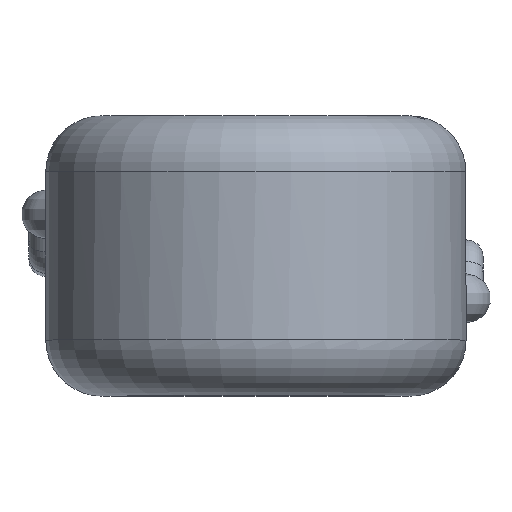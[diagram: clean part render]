
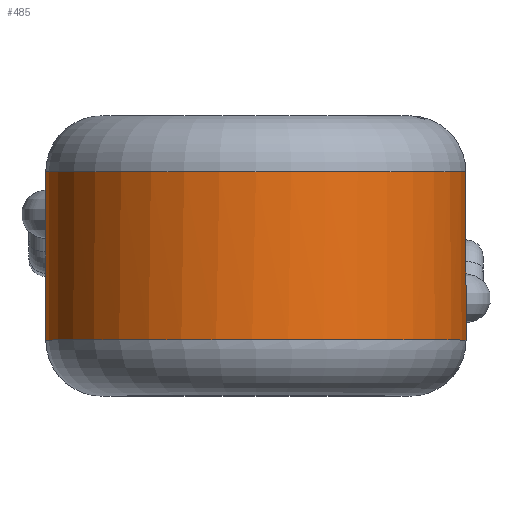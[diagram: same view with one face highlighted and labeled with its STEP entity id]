
A CAD part, top view. The second image highlights one B-rep face of the part: STEP entity #485.
In plain terms, the highlighted cylindrical face has radius 3.75 mm (diameter 7.5 mm), a full revolution.
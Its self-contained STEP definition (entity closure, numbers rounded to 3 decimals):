
#48=LINE('',#2320,#53);
#53=VECTOR('',#676,3.75);
#62=CYLINDRICAL_SURFACE('',#559,3.75);
#86=FACE_OUTER_BOUND('',#117,.T.);
#117=EDGE_LOOP('',(#412,#413,#414,#415,#416,#417,#418,#419,#420,#421,#422,
#423));
#145=CIRCLE('',#543,3.75);
#146=CIRCLE('',#544,3.75);
#147=CIRCLE('',#545,3.75);
#153=CIRCLE('',#552,3.75);
#154=CIRCLE('',#553,3.75);
#155=CIRCLE('',#554,3.75);
#177=B_SPLINE_CURVE_WITH_KNOTS('',3,(#957,#958,#959,#960,#961,#962,#963,
#964,#965,#966,#967,#968,#969,#970,#971,#972,#973,#974,#975,#976,#977,#978),
 .UNSPECIFIED.,.F.,.F.,(4,3,3,3,3,3,3,4),(-0.122,-0.087,
-0.052,-0.048,-0.044,-0.035,
-0.018,0.),.UNSPECIFIED.);
#178=B_SPLINE_CURVE_WITH_KNOTS('',3,(#979,#980,#981,#982,#983,#984,#985,
#986),.UNSPECIFIED.,.F.,.F.,(4,1,1,1,1,4),(-0.288,-0.271,
-0.245,-0.219,-0.201,-0.167),
 .UNSPECIFIED.);
#186=B_SPLINE_CURVE_WITH_KNOTS('',3,(#1648,#1649,#1650,#1651,#1652,#1653,
#1654,#1655,#1656,#1657,#1658,#1659,#1660,#1661,#1662,#1663,#1664,#1665,
#1666,#1667,#1668,#1669),.UNSPECIFIED.,.F.,.F.,(4,3,3,3,3,3,3,4),(-0.122,
-0.087,-0.052,-0.048,-0.044,
-0.035,-0.018,0.),
 .UNSPECIFIED.);
#187=B_SPLINE_CURVE_WITH_KNOTS('',3,(#1670,#1671,#1672,#1673,#1674,#1675,
#1676,#1677),.UNSPECIFIED.,.F.,.F.,(4,1,1,1,1,4),(-0.288,-0.271,
-0.245,-0.219,-0.201,-0.167),
 .UNSPECIFIED.);
#207=VERTEX_POINT('',#887);
#212=VERTEX_POINT('',#954);
#213=VERTEX_POINT('',#956);
#217=VERTEX_POINT('',#1496);
#218=VERTEX_POINT('',#1499);
#219=VERTEX_POINT('',#1578);
#224=VERTEX_POINT('',#1645);
#225=VERTEX_POINT('',#1647);
#229=VERTEX_POINT('',#2187);
#230=VERTEX_POINT('',#2190);
#266=EDGE_CURVE('',#212,#213,#177,.T.);
#267=EDGE_CURVE('',#213,#207,#178,.T.);
#274=EDGE_CURVE('',#217,#212,#145,.T.);
#275=EDGE_CURVE('',#207,#218,#146,.T.);
#276=EDGE_CURVE('',#218,#217,#147,.T.);
#283=EDGE_CURVE('',#224,#225,#186,.T.);
#284=EDGE_CURVE('',#225,#219,#187,.T.);
#291=EDGE_CURVE('',#229,#224,#153,.T.);
#292=EDGE_CURVE('',#219,#230,#154,.T.);
#293=EDGE_CURVE('',#230,#229,#155,.T.);
#298=EDGE_CURVE('',#230,#218,#48,.T.);
#412=ORIENTED_EDGE('',*,*,#283,.F.);
#413=ORIENTED_EDGE('',*,*,#291,.F.);
#414=ORIENTED_EDGE('',*,*,#293,.F.);
#415=ORIENTED_EDGE('',*,*,#298,.T.);
#416=ORIENTED_EDGE('',*,*,#275,.F.);
#417=ORIENTED_EDGE('',*,*,#267,.F.);
#418=ORIENTED_EDGE('',*,*,#266,.F.);
#419=ORIENTED_EDGE('',*,*,#274,.F.);
#420=ORIENTED_EDGE('',*,*,#276,.F.);
#421=ORIENTED_EDGE('',*,*,#298,.F.);
#422=ORIENTED_EDGE('',*,*,#292,.F.);
#423=ORIENTED_EDGE('',*,*,#284,.F.);
#485=ADVANCED_FACE('',(#86),#62,.T.);
#543=AXIS2_PLACEMENT_3D('',#1498,#642,#643);
#544=AXIS2_PLACEMENT_3D('',#1500,#644,#645);
#545=AXIS2_PLACEMENT_3D('',#1501,#646,#647);
#552=AXIS2_PLACEMENT_3D('',#2189,#660,#661);
#553=AXIS2_PLACEMENT_3D('',#2191,#662,#663);
#554=AXIS2_PLACEMENT_3D('',#2192,#664,#665);
#559=AXIS2_PLACEMENT_3D('',#2319,#674,#675);
#642=DIRECTION('center_axis',(0.,1.,0.));
#643=DIRECTION('ref_axis',(-1.,0.,0.));
#644=DIRECTION('center_axis',(0.,1.,0.));
#645=DIRECTION('ref_axis',(-1.,0.,0.));
#646=DIRECTION('center_axis',(0.,1.,0.));
#647=DIRECTION('ref_axis',(-1.,0.,0.));
#660=DIRECTION('center_axis',(0.,-1.,0.));
#661=DIRECTION('ref_axis',(-1.,0.,0.));
#662=DIRECTION('center_axis',(0.,-1.,0.));
#663=DIRECTION('ref_axis',(-1.,0.,0.));
#664=DIRECTION('center_axis',(0.,-1.,0.));
#665=DIRECTION('ref_axis',(-1.,0.,0.));
#674=DIRECTION('center_axis',(0.,-1.,0.));
#675=DIRECTION('ref_axis',(1.,0.,0.));
#676=DIRECTION('',(0.,1.,0.));
#887=CARTESIAN_POINT('',(-2.978,1.5,-2.279));
#954=CARTESIAN_POINT('',(-2.484,1.5,-2.81));
#956=CARTESIAN_POINT('',(-2.747,-0.101,-2.553));
#957=CARTESIAN_POINT('Ctrl Pts',(-2.484,1.5,-2.81));
#958=CARTESIAN_POINT('Ctrl Pts',(-2.355,1.398,-2.923));
#959=CARTESIAN_POINT('Ctrl Pts',(-2.247,1.222,-3.003));
#960=CARTESIAN_POINT('Ctrl Pts',(-2.197,1.019,-3.039));
#961=CARTESIAN_POINT('Ctrl Pts',(-2.147,0.815,-3.076));
#962=CARTESIAN_POINT('Ctrl Pts',(-2.156,0.584,-3.069));
#963=CARTESIAN_POINT('Ctrl Pts',(-2.223,0.39,-3.02));
#964=CARTESIAN_POINT('Ctrl Pts',(-2.231,0.365,-3.014));
#965=CARTESIAN_POINT('Ctrl Pts',(-2.241,0.342,-3.007));
#966=CARTESIAN_POINT('Ctrl Pts',(-2.25,0.319,-2.999));
#967=CARTESIAN_POINT('Ctrl Pts',(-2.26,0.295,-2.992));
#968=CARTESIAN_POINT('Ctrl Pts',(-2.271,0.273,-2.984));
#969=CARTESIAN_POINT('Ctrl Pts',(-2.282,0.251,-2.975));
#970=CARTESIAN_POINT('Ctrl Pts',(-2.305,0.208,-2.958));
#971=CARTESIAN_POINT('Ctrl Pts',(-2.331,0.167,-2.938));
#972=CARTESIAN_POINT('Ctrl Pts',(-2.358,0.13,-2.915));
#973=CARTESIAN_POINT('Ctrl Pts',(-2.413,0.057,-2.871));
#974=CARTESIAN_POINT('Ctrl Pts',(-2.477,-0.002,
-2.817));
#975=CARTESIAN_POINT('Ctrl Pts',(-2.543,-0.042,
-2.756));
#976=CARTESIAN_POINT('Ctrl Pts',(-2.61,-0.082,
-2.694));
#977=CARTESIAN_POINT('Ctrl Pts',(-2.68,-0.102,-2.625));
#978=CARTESIAN_POINT('Ctrl Pts',(-2.747,-0.101,-2.553));
#979=CARTESIAN_POINT('Ctrl Pts',(-2.747,-0.101,-2.553));
#980=CARTESIAN_POINT('Ctrl Pts',(-2.812,-0.101,-2.482));
#981=CARTESIAN_POINT('Ctrl Pts',(-2.97,-0.047,
-2.299));
#982=CARTESIAN_POINT('Ctrl Pts',(-3.152,0.227,-2.037));
#983=CARTESIAN_POINT('Ctrl Pts',(-3.222,0.647,-1.917));
#984=CARTESIAN_POINT('Ctrl Pts',(-3.191,1.137,-1.971));
#985=CARTESIAN_POINT('Ctrl Pts',(-3.082,1.399,-2.143));
#986=CARTESIAN_POINT('Ctrl Pts',(-2.978,1.5,-2.279));
#1496=CARTESIAN_POINT('',(0.,1.5,3.75));
#1498=CARTESIAN_POINT('Origin',(0.,1.5,0.));
#1499=CARTESIAN_POINT('',(-3.75,1.5,0.));
#1500=CARTESIAN_POINT('Origin',(0.,1.5,0.));
#1501=CARTESIAN_POINT('Origin',(0.,1.5,0.));
#1578=CARTESIAN_POINT('',(2.978,-1.5,-2.279));
#1645=CARTESIAN_POINT('',(2.484,-1.5,-2.81));
#1647=CARTESIAN_POINT('',(2.747,0.101,-2.553));
#1648=CARTESIAN_POINT('Ctrl Pts',(2.484,-1.5,-2.81));
#1649=CARTESIAN_POINT('Ctrl Pts',(2.355,-1.398,-2.923));
#1650=CARTESIAN_POINT('Ctrl Pts',(2.247,-1.222,-3.003));
#1651=CARTESIAN_POINT('Ctrl Pts',(2.197,-1.019,-3.039));
#1652=CARTESIAN_POINT('Ctrl Pts',(2.147,-0.815,-3.076));
#1653=CARTESIAN_POINT('Ctrl Pts',(2.156,-0.584,-3.069));
#1654=CARTESIAN_POINT('Ctrl Pts',(2.223,-0.39,-3.02));
#1655=CARTESIAN_POINT('Ctrl Pts',(2.231,-0.365,-3.014));
#1656=CARTESIAN_POINT('Ctrl Pts',(2.241,-0.342,-3.007));
#1657=CARTESIAN_POINT('Ctrl Pts',(2.25,-0.319,-2.999));
#1658=CARTESIAN_POINT('Ctrl Pts',(2.26,-0.295,-2.992));
#1659=CARTESIAN_POINT('Ctrl Pts',(2.271,-0.273,-2.984));
#1660=CARTESIAN_POINT('Ctrl Pts',(2.282,-0.251,-2.975));
#1661=CARTESIAN_POINT('Ctrl Pts',(2.305,-0.208,-2.958));
#1662=CARTESIAN_POINT('Ctrl Pts',(2.331,-0.167,-2.938));
#1663=CARTESIAN_POINT('Ctrl Pts',(2.358,-0.13,-2.915));
#1664=CARTESIAN_POINT('Ctrl Pts',(2.413,-0.057,
-2.871));
#1665=CARTESIAN_POINT('Ctrl Pts',(2.477,0.002,
-2.817));
#1666=CARTESIAN_POINT('Ctrl Pts',(2.543,0.042,-2.756));
#1667=CARTESIAN_POINT('Ctrl Pts',(2.61,0.082,-2.694));
#1668=CARTESIAN_POINT('Ctrl Pts',(2.68,0.102,-2.625));
#1669=CARTESIAN_POINT('Ctrl Pts',(2.747,0.101,-2.553));
#1670=CARTESIAN_POINT('Ctrl Pts',(2.747,0.101,-2.553));
#1671=CARTESIAN_POINT('Ctrl Pts',(2.812,0.101,-2.482));
#1672=CARTESIAN_POINT('Ctrl Pts',(2.97,0.047,-2.299));
#1673=CARTESIAN_POINT('Ctrl Pts',(3.152,-0.227,-2.037));
#1674=CARTESIAN_POINT('Ctrl Pts',(3.222,-0.647,-1.917));
#1675=CARTESIAN_POINT('Ctrl Pts',(3.191,-1.137,-1.971));
#1676=CARTESIAN_POINT('Ctrl Pts',(3.082,-1.399,-2.143));
#1677=CARTESIAN_POINT('Ctrl Pts',(2.978,-1.5,-2.279));
#2187=CARTESIAN_POINT('',(0.,-1.5,-3.75));
#2189=CARTESIAN_POINT('Origin',(0.,-1.5,0.));
#2190=CARTESIAN_POINT('',(-3.75,-1.5,0.));
#2191=CARTESIAN_POINT('Origin',(0.,-1.5,0.));
#2192=CARTESIAN_POINT('Origin',(0.,-1.5,0.));
#2319=CARTESIAN_POINT('Origin',(0.,0.,
0.));
#2320=CARTESIAN_POINT('',(-3.75,0.,0.));
